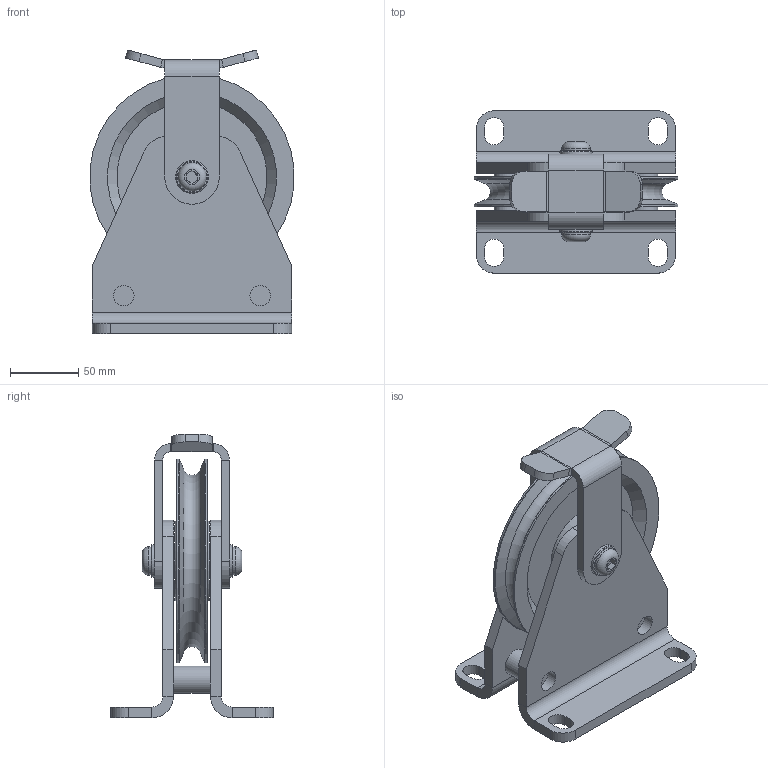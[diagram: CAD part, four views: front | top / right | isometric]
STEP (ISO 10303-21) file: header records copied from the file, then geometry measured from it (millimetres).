
FILE_DESCRIPTION(/* description */ ('Seilrollenbock Seilniederhalter ø150 Stahl Gleitlager komplett'),/* implementation_level */ '2;1');
FILE_NAME(/* name */ 'Z:\Workspace\03 Seilrollen\1.406 Seilrollenbock Seilniederhalter Gleitlager\1.406.05 Seilrollenbock Seilniederhalter ø150 Stahl Gleitlager\1.406.05 Seilrollenbock Seilniederhalter ø150 Stahl Gleitlager komplett.stp',/* time_stamp */ '2021-10-07T14:49:35+02:00',/* author */ ('cad-user'),/* organization */ (''),/* preprocessor_version */ 'ST-DEVELOPER v18',/* originating_system */ 'Autodesk Inventor 2020',/* authorisation */ '');
FILE_SCHEMA (('AUTOMOTIVE_DESIGN { 1 0 10303 214 3 1 1 }'));
Length unit declared in the file: millimetre
Products named in the file (11): 1.406.05 Seilrollenbock Seilniederhalter ø150 Stahl Gleitlager ko
mplett; 1.405.05.01 Seilrollenbock Schweißteil; 1.405.05.01 Blech; 1.405.04.01 Distanzachse; 1.401.05 Seilrolle ø150 Buchse komplett ; 1.401.05 Seilrolle ø150 Buchse ; Lagerbuchse 2025-DU; 1.405.05.02 Achse; DIN 125-1 - B 13; ISO 7380 - M12 x 25; 1.406.05.03 Seilniederhalter ø150
Assembly tree (14 placements, depth 3):
  1.406.05 Seilrollenbock Seilniederhalter ø150 Stahl Gleitlager ko
mplett
    1.405.05.01 Seilrollenbock Schweißteil
      1.405.05.01 Blech  x2
      1.405.04.01 Distanzachse  x2
    1.401.05 Seilrolle ø150 Buchse komplett 
      1.401.05 Seilrolle ø150 Buchse 
      Lagerbuchse 2025-DU
    1.405.05.02 Achse
    DIN 125-1 - B 13  x2
    ISO 7380 - M12 x 25  x2
    1.406.05.03 Seilniederhalter ø150
Bounding box: 149.45 x 119 x 208.04 mm (x, y, z)
Volume: 641086.2 mm3; surface area: 196208.4 mm2
Topology: 12 solids, 12 shells, 189 faces, 455 edges, 294 vertices
Faces by surface type: plane 106, cylinder 62, cone 14, torus 7
Full cylindrical faces by diameter (mm): 10.106 x1, 12 x2, 12.6 x4, 13 x2, 15 x4, 20 x3, 21 x2, 23 x1, 24 x2, 60 x2, 150 x2
Entity records: 4421 total; most frequent: DIRECTION 775, CARTESIAN_POINT 713, ORIENTED_EDGE 646, EDGE_CURVE 323, AXIS2_PLACEMENT_3D 303, VERTEX_POINT 208, LINE 169, VECTOR 169
